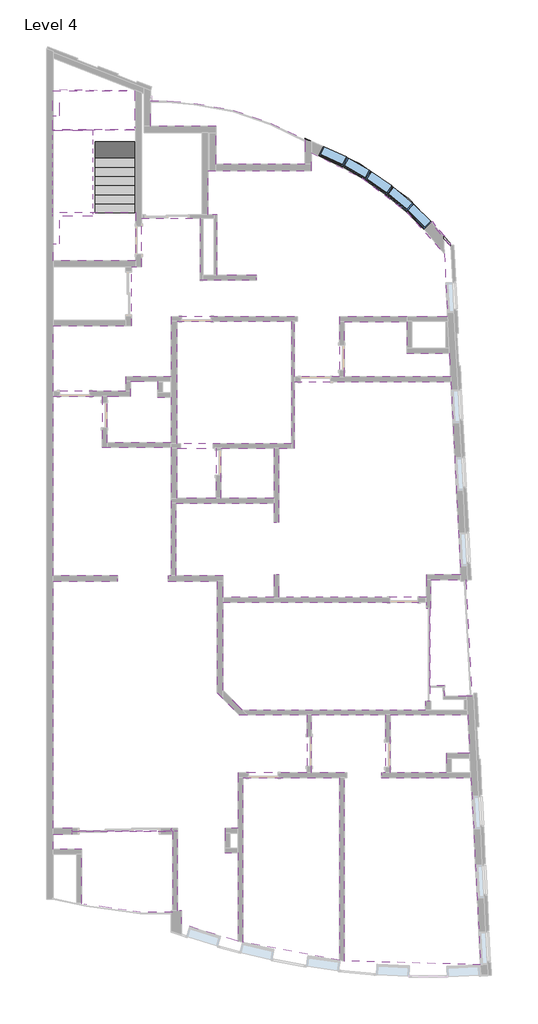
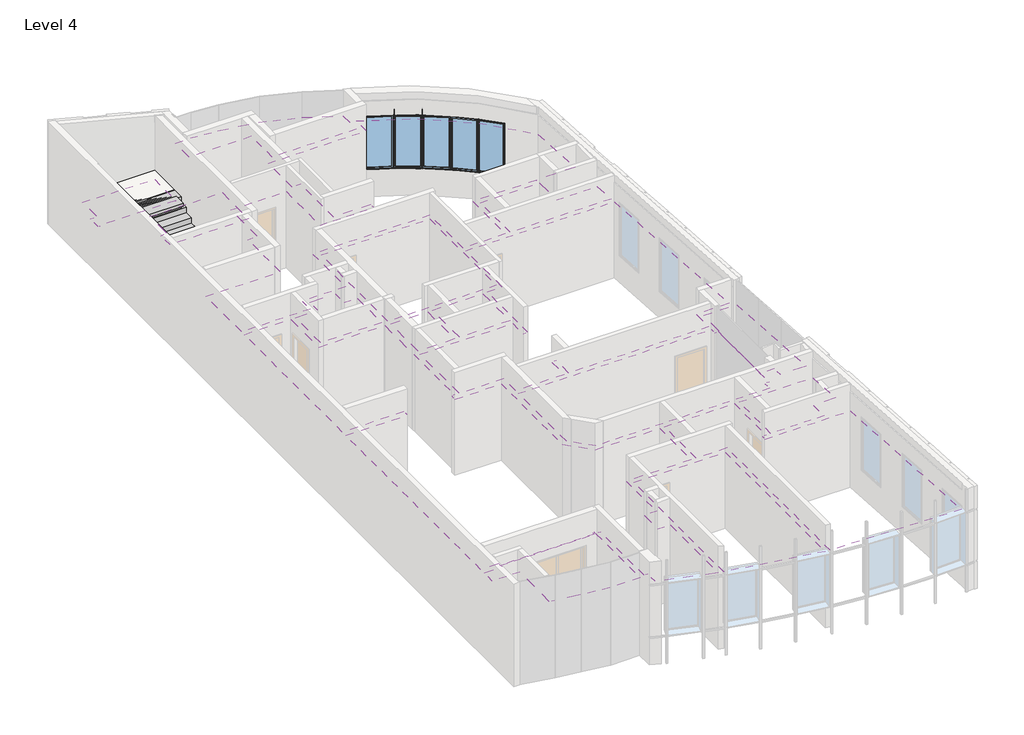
# One storey, part 5 of 5: 19 coverings, 5 windows, 2 proxies, 2 stair flights, 1 slab.
"""IFC4 building model written with IfcOpenShell, lengths in millimetres."""

import ifcopenshell
import ifcopenshell.guid

model = None  # the IFC model being written
_history = None  # IfcOwnerHistory: only IFC2X3 demands one
_inside = {}  # id of a spatial element -> (the spatial element, [elements in it])
_under = {}  # id of a project, library or spatial element -> (it, [spatial elements below it])
_declared = {}  # id of a project -> (the project, [libraries it declares])
_typed = {}  # id of a type object -> (the type object, [elements of that type])
_made_of = {}  # id of a material, layer set ... -> (it, [elements and type objects made of it])


def new_model(schema):
    """Start an empty IFC model of exactly this schema.

    Asked for "IFC4X3", IfcOpenShell would pick the latest addendum, in which some entities
    have other attributes; the version numbers below select the first issue.
    IFC2X3 requires an IfcOwnerHistory on every rooted entity: one is made here for all.
    """
    global model, _history
    if schema == "IFC4X3":
        model = ifcopenshell.file(schema_version=(4, 3, 0, 0))
    else:
        model = ifcopenshell.file(schema=schema)
    _inside.clear()
    _under.clear()
    _declared.clear()
    _typed.clear()
    _made_of.clear()
    _history = None
    if model.schema == "IFC2X3":
        org = make("IfcOrganization", Name="unknown")
        user = make(
            "IfcPersonAndOrganization",
            ThePerson=make("IfcPerson", FamilyName="unknown"),
            TheOrganization=org,
        )
        app = make(
            "IfcApplication",
            ApplicationDeveloper=org,
            Version="unknown",
            ApplicationFullName="unknown",
            ApplicationIdentifier="unknown",
        )
        _history = make(
            "IfcOwnerHistory",
            OwningUser=user,
            OwningApplication=app,
            ChangeAction="ADDED",
            CreationDate=0,
        )
    return model


def make(cls, **values):
    """One entity of the class cls with the attributes given. An attribute that is None is left unset."""
    return model.create_entity(
        cls, **{name: value for name, value in values.items() if value is not None}
    )


def rooted(cls, **values):
    """An entity with a GlobalId (a new one), such as an element, a storey or a relation."""
    return make(cls, GlobalId=ifcopenshell.guid.new(), OwnerHistory=_history, **values)


def si_unit(unit_type, name, prefix=None):
    """IfcSIUnit, for example si_unit("LENGTHUNIT", "METRE", prefix="MILLI")."""
    return make("IfcSIUnit", UnitType=unit_type, Prefix=prefix, Name=name)


def assignment(units):
    """IfcUnitAssignment: the units of a project."""
    return None if units is None else make("IfcUnitAssignment", Units=units)


def point(xyz):
    """IfcCartesianPoint."""
    return None if xyz is None else make("IfcCartesianPoint", Coordinates=xyz)


def direction(xyz):
    """IfcDirection."""
    return None if xyz is None else make("IfcDirection", DirectionRatios=xyz)


def frame(location, z_axis=None, x_axis=None):
    """IfcAxis2Placement3D, a coordinate frame: its origin and axes. An axis left out is left unset."""
    return make(
        "IfcAxis2Placement3D",
        Location=point(location),
        Axis=direction(z_axis),
        RefDirection=direction(x_axis),
    )


def frame_2d(location, x_axis=None):
    """IfcAxis2Placement2D, a coordinate frame in the plane: its origin and x axis."""
    return make(
        "IfcAxis2Placement2D", Location=point(location), RefDirection=direction(x_axis)
    )


def origin():
    """The frame at (0, 0, 0) with its axes left unset."""
    return frame((0.0, 0.0, 0.0))


def place(relative_to, where):
    """IfcLocalPlacement: puts the frame where relative to a parent placement (None: the world)."""
    return make(
        "IfcLocalPlacement", PlacementRelTo=relative_to, RelativePlacement=where
    )


def context(
    kind, dimensions, precision=None, world=None, true_north=None, identifier=None
):
    """IfcGeometricRepresentationContext, for example the 3D "Model" context."""
    return make(
        "IfcGeometricRepresentationContext",
        ContextIdentifier=identifier,
        ContextType=kind,
        CoordinateSpaceDimension=dimensions,
        Precision=precision,
        WorldCoordinateSystem=world,
        TrueNorth=true_north,
    )


def project(units=None, contexts=None):
    """IfcProject with its units and contexts."""
    return rooted(
        "IfcProject",
        Name="project",
        RepresentationContexts=contexts,
        UnitsInContext=assignment(units),
    )


def spatial(cls, under=None, at=None, **own):
    """A site, building, storey or space (cls), placed at a placement, below another one or the project."""
    s = rooted(cls, ObjectPlacement=at, **own)
    if under is not None:
        _under.setdefault(under.id(), (under, []))[1].append(s)
    return s


def polyline(points):
    """IfcPolyline through the points."""
    return make("IfcPolyline", Points=[point(p) for p in points])


def circle_curve(where, radius):
    """IfcCircle in the frame where."""
    return make("IfcCircle", Position=where, Radius=radius)


def trimmed(basis, trim1, trim2, sense, master):
    """IfcTrimmedCurve: the piece of a basis curve between two trims."""
    return make(
        "IfcTrimmedCurve",
        BasisCurve=basis,
        Trim1=trim1,
        Trim2=trim2,
        SenseAgreement=sense,
        MasterRepresentation=master,
    )


def segment(curve, same_sense, transition):
    """IfcCompositeCurveSegment."""
    return make(
        "IfcCompositeCurveSegment",
        Transition=transition,
        SameSense=same_sense,
        ParentCurve=curve,
    )


def composite_curve(segments, self_intersect=None):
    """IfcCompositeCurve: segments joined end to end."""
    return make("IfcCompositeCurve", Segments=segments, SelfIntersect=self_intersect)


def outline(outer, holes=None, kind="AREA"):
    """IfcArbitraryClosedProfileDef: a profile drawn as a closed curve; with holes, ...WithVoids."""
    if holes is None:
        return make("IfcArbitraryClosedProfileDef", ProfileType=kind, OuterCurve=outer)
    return make(
        "IfcArbitraryProfileDefWithVoids",
        ProfileType=kind,
        OuterCurve=outer,
        InnerCurves=holes,
    )


def extrude(swept, where, along, depth):
    """IfcExtrudedAreaSolid: the profile swept, set in the frame where, extruded along a direction by depth."""
    return make(
        "IfcExtrudedAreaSolid",
        SweptArea=swept,
        Position=where,
        ExtrudedDirection=direction(along),
        Depth=depth,
    )


def faces_of(points, faces, orient=None, outer=None):
    """IfcFace entities. A face is a list of loops; a loop is a list of indices into points, from 0.

    orient and outer hold one flag for each loop. By default every Orientation is true, the
    first loop of a face is its IfcFaceOuterBound and the others are IfcFaceBound.
    """
    made = []
    for i, loops in enumerate(faces):
        bounds = []
        for j, loop in enumerate(loops):
            is_outer = j == 0 if outer is None else outer[i][j]
            bounds.append(
                make(
                    "IfcFaceOuterBound" if is_outer else "IfcFaceBound",
                    Bound=make("IfcPolyLoop", Polygon=[points[k] for k in loop]),
                    Orientation=True if orient is None else orient[i][j],
                )
            )
        made.append(make("IfcFace", Bounds=bounds))
    return made


def faceted_brep(points, faces, orient=None, outer=None, voids=None):
    """IfcFacetedBrep: a solid bounded by flat faces; with voids (closed shells), ...WithVoids."""
    shared = [point(p) for p in points]
    hull = make("IfcClosedShell", CfsFaces=faces_of(shared, faces, orient, outer))
    if voids is None:
        return make("IfcFacetedBrep", Outer=hull)
    return make(
        "IfcFacetedBrepWithVoids",
        Outer=hull,
        Voids=[
            make(cls, CfsFaces=faces_of(shared, fs, o, b)) for cls, fs, o, b in voids
        ],
    )


def shape(context_of_items, identifier, shape_type, items):
    """IfcShapeRepresentation: the items that make up one representation, for example the "Body"."""
    return make(
        "IfcShapeRepresentation",
        ContextOfItems=context_of_items,
        RepresentationIdentifier=identifier,
        RepresentationType=shape_type,
        Items=items,
    )


def source(mapping_origin, context_of_items, identifier, shape_type, items):
    """IfcRepresentationMap: a shape defined once, which mapped items show again and again."""
    return make(
        "IfcRepresentationMap",
        MappingOrigin=mapping_origin,
        MappedRepresentation=shape(context_of_items, identifier, shape_type, items),
    )


def transform(
    local_origin,
    x_axis=None,
    y_axis=None,
    z_axis=None,
    scale=None,
    scale2=None,
    scale3=None,
    uniform=True,
):
    """IfcCartesianTransformationOperator3D, or its non-uniform kind. x_axis, y_axis, z_axis: its Axis1, 2, 3."""
    if uniform:
        return make(
            "IfcCartesianTransformationOperator3D",
            Axis1=direction(x_axis),
            Axis2=direction(y_axis),
            LocalOrigin=point(local_origin),
            Scale=scale,
            Axis3=direction(z_axis),
        )
    return make(
        "IfcCartesianTransformationOperator3DnonUniform",
        Axis1=direction(x_axis),
        Axis2=direction(y_axis),
        LocalOrigin=point(local_origin),
        Scale=scale,
        Axis3=direction(z_axis),
        Scale2=scale2,
        Scale3=scale3,
    )


def mapped(mapping_source, mapping_target):
    """IfcMappedItem: shows the shape of a source again, moved by a transform."""
    return make(
        "IfcMappedItem", MappingSource=mapping_source, MappingTarget=mapping_target
    )


def made_of(thing, what):
    """Note that an element or type object is made of a material, layer set ...; save() writes the relation."""
    if what is not None:
        _made_of.setdefault(what.id(), (what, []))[1].append(thing)
    return thing


def element(
    cls,
    number,
    at=None,
    inside=None,
    cuts=None,
    type_object=None,
    material=None,
    context=None,
    identifier="Body",
    shape_type=None,
    held_by="IfcProductDefinitionShape",
    body=None,
    shapes=None,
    **own,
):
    """One element of the class cls, such as IfcWall. Its Tag is "e" and its number.

    at: its placement. inside: the storey or other place that contains it. cuts: it is an
    opening in that element (IfcRelVoidsElement). A single representation is given by context,
    identifier, shape_type and body (its items); several are given by shapes. held_by: the class
    of the entity that holds the representations. save() writes the other relations.
    """
    e = rooted(cls, Tag="e%d" % number, ObjectPlacement=at, **own)
    if body is not None:
        shapes = [shape(context, identifier, shape_type, body)]
    if shapes is not None:
        e.Representation = make(held_by, Representations=shapes)
    if inside is not None:
        _inside.setdefault(inside.id(), (inside, []))[1].append(e)
    if cuts is not None:
        rooted(
            "IfcRelVoidsElement", RelatingBuildingElement=cuts, RelatedOpeningElement=e
        )
    if type_object is not None:
        _typed.setdefault(type_object.id(), (type_object, []))[1].append(e)
    return made_of(e, material)


def aggregate(whole, parts):
    """IfcRelAggregates: a whole, such as a stair, and the parts it consists of."""
    return rooted("IfcRelAggregates", RelatingObject=whole, RelatedObjects=parts)


def save(model, path):
    """Write the relations noted so far, then the file.

    IfcRelAggregates (storeys below a building ...), IfcRelContainedInSpatialStructure (elements
    in a storey), IfcRelDefinesByType, IfcRelAssociatesMaterial and IfcRelDeclares: one each for
    every whole, place, type object, material and project.
    """
    for whole, parts in _under.values():
        aggregate(whole, parts)
    for where, things in _inside.values():
        rooted(
            "IfcRelContainedInSpatialStructure",
            RelatedElements=things,
            RelatingStructure=where,
        )
    for kind, things in _typed.values():
        rooted("IfcRelDefinesByType", RelatedObjects=things, RelatingType=kind)
    for what, things in _made_of.values():
        rooted("IfcRelAssociatesMaterial", RelatedObjects=things, RelatingMaterial=what)
    for by, libraries in _declared.values():
        rooted("IfcRelDeclares", RelatingContext=by, RelatedDefinitions=libraries)
    model.write(path)


def m_fixed_0815_x_1830mm_2_6a11e188(model_context):
    return source(origin(), model_context, "Body", "SweptSolid", [
        extrude(outline(polyline([(-344.5, 138.0), (344.5, 138.0), (344.5, 126.0), (-344.5, 126.0), (-344.5, 138.0)])), frame((0.0, 0.0, 368.0), z_axis=(0.0, 0.0, 1.0), x_axis=(1.0, 0.0, 0.0)), (0.0, 0.0, 1.0), 1704.0),
        extrude(outline(polyline([(2116.0, -388.5), (324.0, -388.5), (324.0, 388.5), (2116.0, 388.5), (2116.0, -388.5)]), holes=[polyline([(2072.0, -344.5), (2072.0, 344.5), (368.0, 344.5), (368.0, -344.5), (2072.0, -344.5)])]), frame((0.0, 110.0, 0.0), z_axis=(0.0, 1.0, 0.0), x_axis=(0.0, 0.0, 1.0)), (0.0, 0.0, 1.0), 44.0),
        extrude(outline(polyline([(2135.0, -407.5), (305.0, -407.5), (305.0, 407.5), (2135.0, 407.5), (2135.0, -407.5)]), holes=[polyline([(2116.0, -388.5), (2116.0, 388.5), (324.0, 388.5), (324.0, -388.5), (2116.0, -388.5)])]), frame((0.0, 110.0, 0.0), z_axis=(0.0, 1.0, 0.0), x_axis=(0.0, 0.0, 1.0)), (0.0, 0.0, 1.0), 63.0),
        extrude(outline(polyline([(2135.0, -407.5), (305.0, -407.5), (305.0, 407.5), (2135.0, 407.5), (2135.0, -407.5)]), holes=[polyline([(2103.0, -375.5), (2103.0, 375.5), (337.0, 375.5), (337.0, -375.5), (2103.0, -375.5)])]), frame((0.0, -147.0, 0.0), z_axis=(0.0, 1.0, 0.0), x_axis=(0.0, 0.0, 1.0)), (0.0, 0.0, 1.0), 257.0),
    ])


model = new_model("IFC4")

# Units and contexts
model_context = context("Model", 3, world=origin())
ifc_project = project(units=[si_unit("LENGTHUNIT", "METRE", prefix="MILLI")], contexts=[model_context])

# Site, building, storey
site = spatial("IfcSite", under=ifc_project)
building = spatial("IfcBuilding", under=site)
storey = spatial("IfcBuildingStorey", under=building, Name="Level 4", Elevation=15000.0)

# Proxies
placement = place(None, origin())
element("IfcBuildingElementProxy", 1, Name="Reveal", ObjectType="Reveal", at=placement, inside=storey, context=model_context, shape_type="SweptSolid", body=[
    extrude(outline(composite_curve([segment(trimmed(circle_curve(frame_2d((4535.6080259, 3399.2748166)), 9525.0), [point((12124.5482533, 9155.45508))], [point((7662.3072504, 12396.4619859))], True, "CARTESIAN"), True, "CONTINUOUS"), segment(polyline([(7662.3072504, 12396.4619859), (7662.3072504, 12449.3785154)]), True, "CONTINUOUS"), segment(trimmed(circle_curve(frame_2d((4535.6080259, 3399.2748166)), 9575.0), [point((7662.3072504, 12449.3785154))], [point((12120.0590293, 9243.6505726))], False, "CARTESIAN"), True, "CONTINUOUS"), segment(polyline([(12120.0590293, 9243.6505726), (12124.5482533, 9155.45508)]), True, "CONTINUOUS")], self_intersect=False)), frame((0.0, 0.0, 15875.0), z_axis=(0.0, 0.0, 1.0), x_axis=(1.0, 0.0, 0.0)), (0.0, 0.0, 1.0), 50.0),
])
element("IfcBuildingElementProxy", 2, Name="Reveal", ObjectType="Reveal", at=placement, inside=storey, context=model_context, shape_type="SweptSolid", body=[
    extrude(outline(composite_curve([segment(trimmed(circle_curve(frame_2d((4535.6080259, 3399.2748166)), 9525.0), [point((12124.5482533, 9155.45508))], [point((11527.266896, 9867.8396686))], True, "CARTESIAN"), True, "CONTINUOUS"), segment(polyline([(11527.266896, 9867.8396686), (11562.5143185, 9903.3668328)]), True, "CONTINUOUS"), segment(trimmed(circle_curve(frame_2d((4535.6080259, 3399.2748166)), 9575.0), [point((11562.5143185, 9903.3668328))], [point((12120.0590293, 9243.6505726))], False, "CARTESIAN"), True, "CONTINUOUS"), segment(polyline([(12120.0590293, 9243.6505726), (12124.5482533, 9155.45508)]), True, "CONTINUOUS")], self_intersect=False)), frame((0.0, 0.0, 17695.0), z_axis=(0.0, 0.0, 1.0), x_axis=(1.0, 0.0, 0.0)), (0.0, 0.0, 1.0), 50.0),
    extrude(outline(composite_curve([segment(trimmed(circle_curve(frame_2d((4535.6080259, 3399.2748166)), 9525.0), [point((8210.516289, 12186.8042907))], [point((7662.3072504, 12396.4619859))], True, "CARTESIAN"), True, "CONTINUOUS"), segment(polyline([(7662.3072504, 12396.4619859), (7662.3072504, 12449.3785154)]), True, "CONTINUOUS"), segment(trimmed(circle_curve(frame_2d((4535.6080259, 3399.2748166)), 9575.0), [point((7662.3072504, 12449.3785154))], [point((8231.7823405, 12232.1067767))], False, "CARTESIAN"), True, "CONTINUOUS"), segment(polyline([(8231.7823405, 12232.1067767), (8210.516289, 12186.8042907)]), True, "CONTINUOUS")], self_intersect=False)), frame((0.0, 0.0, 17695.0), z_axis=(0.0, 0.0, 1.0), x_axis=(1.0, 0.0, 0.0)), (0.0, 0.0, 1.0), 50.0),
    extrude(outline(composite_curve([segment(trimmed(circle_curve(frame_2d((4535.6080259, 3399.2748166)), 9525.0), [point((8957.9716481, 11835.4069275))], [point((8948.2742549, 11840.4833647))], True, "CARTESIAN"), True, "CONTINUOUS"), segment(polyline([(8948.2742549, 11840.4833647), (8969.5403064, 11885.7858507)]), True, "CONTINUOUS"), segment(trimmed(circle_curve(frame_2d((4535.6080259, 3399.2748166)), 9575.0), [point((8969.5403064, 11885.7858507))], [point((8983.0823429, 11878.6968016))], False, "CARTESIAN"), True, "CONTINUOUS"), segment(polyline([(8983.0823429, 11878.6968016), (8957.9716481, 11835.4069275)]), True, "CONTINUOUS")], self_intersect=False)), frame((0.0, 0.0, 17695.0), z_axis=(0.0, 0.0, 1.0), x_axis=(1.0, 0.0, 0.0)), (0.0, 0.0, 1.0), 50.0),
    extrude(outline(composite_curve([segment(trimmed(circle_curve(frame_2d((4535.6080259, 3399.2748166)), 9525.0), [point((9668.2107942, 11423.1151579))], [point((9662.9539178, 11426.4753937))], True, "CARTESIAN"), True, "CONTINUOUS"), segment(polyline([(9662.9539178, 11426.4753937), (9688.0646126, 11469.7652678)]), True, "CONTINUOUS"), segment(trimmed(circle_curve(frame_2d((4535.6080259, 3399.2748166)), 9575.0), [point((9688.0646126, 11469.7652678))], [point((9696.9570845, 11464.0811314))], False, "CARTESIAN"), True, "CONTINUOUS"), segment(polyline([(9696.9570845, 11464.0811314), (9668.2107942, 11423.1151579)]), True, "CONTINUOUS")], self_intersect=False)), frame((0.0, 0.0, 17695.0), z_axis=(0.0, 0.0, 1.0), x_axis=(1.0, 0.0, 0.0)), (0.0, 0.0, 1.0), 50.0),
    extrude(outline(composite_curve([segment(trimmed(circle_curve(frame_2d((4535.6080259, 3399.2748166)), 9525.0), [point((10340.2860207, 10951.1844014))], [point((10335.3479854, 10954.9773917))], True, "CARTESIAN"), True, "CONTINUOUS"), segment(polyline([(10335.3479854, 10954.9773917), (10364.0942756, 10995.9433652)]), True, "CONTINUOUS"), segment(trimmed(circle_curve(frame_2d((4535.6080259, 3399.2748166)), 9575.0), [point((10364.0942756, 10995.9433652))], [point((10372.454166, 10989.521989))], False, "CARTESIAN"), True, "CONTINUOUS"), segment(polyline([(10372.454166, 10989.521989), (10340.2860207, 10951.1844014)]), True, "CONTINUOUS")], self_intersect=False)), frame((0.0, 0.0, 17695.0), z_axis=(0.0, 0.0, 1.0), x_axis=(1.0, 0.0, 0.0)), (0.0, 0.0, 1.0), 50.0),
])

# Coverings
element("IfcCovering", 3, ObjectType="600 x 600mm Grid", at=placement, inside=storey, context=model_context, shape_type="SweptSolid", body=[
    extrude(outline(polyline([(3749.9578779, 6844.2927825), (7249.9578779, 6844.2927825), (7249.9578779, 3106.8778064), (3749.9578779, 3106.8778064), (3749.9578779, 6844.2927825)])), frame((0.0, 0.0, 17600.0), z_axis=(0.0, 0.0, 1.0), x_axis=(1.0, 0.0, 0.0)), (0.0, 0.0, 1.0), 52.0),
])
element("IfcCovering", 4, ObjectType="600 x 600mm Grid", at=placement, inside=storey, context=model_context, shape_type="SweptSolid", body=[
    extrude(outline(polyline([(10788.049349, 5875.0705769), (12091.2636332, 5875.0705769), (12128.2063311, 5149.2927029), (8869.9578779, 5149.2927029), (8869.9578779, 6830.3684627), (10788.049349, 6830.3684627), (10788.049349, 5875.0705769)])), frame((0.0, 0.0, 17600.0), z_axis=(0.0, 0.0, 1.0), x_axis=(1.0, 0.0, 0.0)), (0.0, 0.0, 1.0), 52.0),
])
element("IfcCovering", 5, ObjectType="600 x 600mm Grid", at=placement, inside=storey, context=model_context, shape_type="SweptSolid", body=[
    extrude(outline(composite_curve([segment(polyline([(10005.6168737, -7123.7981953), (12752.9168737, -7123.7981953), (13044.0399551, -12843.2151043)]), True, "CONTINUOUS"), segment(trimmed(circle_curve(frame_2d((11609.3245394, 10843.3737526)), 23730.0), [point((13044.0399551, -12843.2151043))], [point((8870.2907737, -12728.0198004))], False, "CARTESIAN"), True, "CONTINUOUS"), segment(polyline([(8870.2907737, -12728.0198004), (8870.2907737, -6973.7981953), (7870.2909314, -6973.7981953), (7870.2909314, -5198.7981953), (10130.2907737, -5198.7981953), (10130.2907737, -6973.7981953), (10005.6168737, -6973.7981953), (10005.6168737, -7123.7981953)]), True, "CONTINUOUS")], self_intersect=False)), frame((0.0, 0.0, 17600.0), z_axis=(0.0, 0.0, 1.0), x_axis=(1.0, 0.0, 0.0)), (0.0, 0.0, 1.0), 52.0),
])
element("IfcCovering", 6, ObjectType="600 x 600mm Grid", at=placement, inside=storey, context=model_context, shape_type="SweptSolid", body=[
    extrude(outline(polyline([(10280.2907737, -5198.7981953), (12654.9327714, -5198.7981953), (12714.7412494, -6373.7981953), (11997.4732011, -6373.7981953), (11997.4732011, -6973.7981953), (10280.2907737, -6973.7981953), (10280.2907737, -5198.7981953)])), frame((0.0, 0.0, 17600.0), z_axis=(0.0, 0.0, 1.0), x_axis=(1.0, 0.0, 0.0)), (0.0, 0.0, 1.0), 52.0),
])
element("IfcCovering", 7, ObjectType="600 x 600mm Grid", at=placement, inside=storey, context=model_context, shape_type="SweptSolid", body=[
    extrude(outline(polyline([(5089.9578779, 1426.8778064), (5089.9578779, 2956.8778064), (6719.9578779, 2956.8778064), (6719.9578779, 1426.8778064), (5089.9578779, 1426.8778064)])), frame((0.0, 0.0, 17600.0), z_axis=(0.0, 0.0, 1.0), x_axis=(1.0, 0.0, 0.0)), (0.0, 0.0, 1.0), 52.0),
])
element("IfcCovering", 8, ObjectType="600 x 600mm Grid", at=placement, inside=storey, context=model_context, shape_type="SweptSolid", body=[
    extrude(outline(polyline([(3569.9578779, 4516.8864855), (3569.9578779, 3136.8778064), (1599.9578776, 3136.8778064), (1599.9578776, 4556.8830582), (2319.9578779, 4556.8830582), (2319.9578779, 5006.8860701), (3149.9574416, 5006.8860701), (3149.9574416, 4516.8864855), (3569.9578779, 4516.8864855)])), frame((0.0, 0.0, 17600.0), z_axis=(0.0, 0.0, 1.0), x_axis=(1.0, 0.0, 0.0)), (0.0, 0.0, 1.0), 52.0),
])
element("IfcCovering", 9, ObjectType="600 x 600mm Grid", at=placement, inside=storey, context=model_context, shape_type="SweptSolid", body=[
    extrude(outline(composite_curve([segment(polyline([(11936.5482631, 8914.6155682), (12034.2942913, 6994.2927825), (10782.6929286, 6994.2927825), (10782.6929286, 6980.3684627), (8719.9578779, 6980.3684627), (8719.9578779, 5149.2927029), (7349.9578779, 5149.2927029), (7349.9578779, 6994.2927825), (3569.9578779, 6994.2927825), (3569.9578779, 5156.8860701), (2169.9578779, 5156.8860701), (2169.9578779, 4706.8830582), (-50.0421304, 4706.8830582), (-50.0421304, 6706.8748838), (2350.0654712, 6706.8748838), (2350.0654712, 8516.8748746), (2661.8607589, 8516.8748746), (2661.8607589, 10006.8748959), (4449.2779066, 10006.8748959), (4449.2779066, 8112.262158), (6174.9402277, 8112.262158), (6174.9402277, 8262.262158), (4979.9402277, 8262.262158), (4979.9402277, 10106.8748959), (4699.9587688, 10106.8748959), (4699.9587688, 11454.5991251), (7862.3072504, 11454.5991251), (7862.3072504, 12008.9189597)]), True, "CONTINUOUS"), segment(trimmed(circle_curve(frame_2d((4535.6080259, 3399.2748166)), 9230.0), [point((7862.3072504, 12008.9189597))], [point((11936.5482631, 8914.6155682))], False, "CARTESIAN"), True, "CONTINUOUS")], self_intersect=False)), frame((0.0, 0.0, 17600.0), z_axis=(0.0, 0.0, 1.0), x_axis=(1.0, 0.0, 0.0)), (0.0, 0.0, 1.0), 52.0),
])
element("IfcCovering", 10, ObjectType="600 x 600mm Grid", at=placement, inside=storey, context=model_context, shape_type="SweptSolid", body=[
    extrude(outline(composite_curve([segment(trimmed(circle_curve(frame_2d((11609.3245394, 10843.3737526)), 23730.0), [point((8720.2907737, -12710.1054788))], [point((5770.2907737, -12157.0302587))], False, "CARTESIAN"), True, "CONTINUOUS"), segment(polyline([(5770.2907737, -12157.0302587), (5770.2907737, -7123.7981953), (8720.2907737, -7123.7981953), (8720.2907737, -12710.1054788)]), True, "CONTINUOUS")], self_intersect=False)), frame((0.0, 0.0, 17600.0), z_axis=(0.0, 0.0, 1.0), x_axis=(1.0, 0.0, 0.0)), (0.0, 0.0, 1.0), 52.0),
])
element("IfcCovering", 11, ObjectType="600 x 600mm Grid", at=placement, inside=storey, context=model_context, shape_type="SweptSolid", body=[
    extrude(outline(composite_curve([segment(polyline([(-50.0421304, -8662.2362629), (-50.0421304, -1113.1221936), (1933.9578781, -1113.1221936), (1933.9578781, -933.1221936), (-50.0421304, -933.1221936), (-50.0421304, 4556.8830582), (1449.9578776, 4556.8830582), (1449.9578776, 2986.8778064), (3569.9578779, 2986.8778064), (3569.9578779, 1351.8778064), (3569.9578779, -933.1221936), (3473.9578779, -933.1221936), (3473.9578779, -1113.1221936), (4969.9578778, -1113.1221936), (4969.9578778, -4517.9715169), (5643.7897147, -5198.7981953), (7720.2909314, -5198.7981953), (7720.2909314, -6973.7981953), (5620.2907737, -6973.7981953), (5620.2907737, -8662.29082), (5223.5699518, -8662.29082), (5223.5699518, -9422.4272222), (5620.2907737, -9422.4272222), (5620.2907737, -12118.4287584)]), True, "CONTINUOUS"), segment(trimmed(circle_curve(frame_2d((11609.3245394, 10843.3737526)), 23730.0), [point((5620.2907737, -12118.4287584))], [point((3880.252741, -11592.6318887))], False, "CARTESIAN"), True, "CONTINUOUS"), segment(polyline([(3880.252741, -11592.6318887), (3880.252741, -11189.3160932), (3760.252741, -11189.3160932), (3760.252741, -8757.0181124), (3600.5670169, -8757.0181124), (3600.5670169, -8673.6141586), (3557.6788606, -8673.6141586), (3557.6788606, -8757.0181124), (529.9578696, -8757.0181124), (529.9578696, -8662.2362629), (-50.0421304, -8662.2362629)]), True, "CONTINUOUS")], self_intersect=False)), frame((0.0, 0.0, 17600.0), z_axis=(0.0, 0.0, 1.0), x_axis=(1.0, 0.0, 0.0)), (0.0, 0.0, 1.0), 52.0),
])
element("IfcCovering", 12, ObjectType="600 x 600mm Grid", at=placement, inside=storey, context=model_context, shape_type="SweptSolid", body=[
    extrude(outline(polyline([(-50.0421304, -9312.1185157), (-50.0421304, -8842.2362629), (529.9578696, -8842.2362629), (529.9578696, -8757.0181124), (3610.252741, -8757.0181124), (3610.252741, -11236.9456492), (2620.252741, -11236.9456492), (1746.4600136, -11114.1420899), (974.05092, -11005.5870712), (829.9393362, -10974.9552084), (829.9393362, -9312.1185157), (-50.0421304, -9312.1185157)])), frame((0.0, 0.0, 17600.0), z_axis=(0.0, 0.0, 1.0), x_axis=(1.0, 0.0, 0.0)), (0.0, 0.0, 1.0), 52.0),
])
element("IfcCovering", 13, ObjectType="600 x 600mm Grid", at=placement, inside=storey, context=model_context, shape_type="SweptSolid", body=[
    extrude(outline(polyline([(11529.9578778, -1933.9547288), (11529.9578778, -1053.8603265), (12594.2109056, -1053.8603265), (12655.9511875, -2266.8126319), (12714.9198118, -3425.3128267), (12776.048406, -4626.2478876), (11949.9334783, -4624.2050678), (11933.314431, -4297.7065316), (11490.9685725, -4320.222304), (11490.9685725, -1933.9547288), (11529.9578778, -1933.9547288)])), frame((0.0, 0.0, 17600.0), z_axis=(0.0, 0.0, 1.0), x_axis=(1.0, 0.0, 0.0)), (0.0, 0.0, 1.0), 52.0),
])
element("IfcCovering", 14, ObjectType="600 x 600mm Grid", at=placement, inside=storey, context=model_context, shape_type="SweptSolid", body=[
    extrude(outline(polyline([(5149.9578778, -4443.9569428), (5149.9578778, -1753.9547298), (11379.9578778, -1753.9547298), (11379.9578778, -1933.9547288), (11490.9685725, -1933.9547288), (11490.9685725, -4783.8440392), (11349.9578778, -4783.8440392), (11349.9578778, -5048.7981953), (5748.5849662, -5048.7981953), (5149.9578778, -4443.9569428)])), frame((0.0, 0.0, 17600.0), z_axis=(0.0, 0.0, 1.0), x_axis=(1.0, 0.0, 0.0)), (0.0, 0.0, 1.0), 52.0),
])
element("IfcCovering", 15, ObjectType="600 x 600mm Grid", at=placement, inside=storey, context=model_context, shape_type="SweptSolid", body=[
    extrude(outline(polyline([(7349.9578779, 2956.8778064), (7349.9578779, 4999.2927029), (12135.8414559, 4999.2927029), (12436.3168588, -903.8603265), (11379.9578778, -903.8603265), (11379.9578778, -1603.9547298), (6869.9578779, -1603.9547298), (6869.9578779, -903.9547298), (6719.9578779, -903.9547298), (6719.9578779, -1603.9547298), (5149.9578778, -1603.9547298), (5149.9578778, -933.1221936), (3719.9578779, -933.1221936), (3719.9578779, 1276.8778064), (6719.9578779, 1276.8778064), (6719.9578779, 696.0452702), (6869.9578779, 696.0452702), (6869.9578779, 2956.8778064), (7349.9578779, 2956.8778064)])), frame((0.0, 0.0, 17600.0), z_axis=(0.0, 0.0, 1.0), x_axis=(1.0, 0.0, 0.0)), (0.0, 0.0, 1.0), 52.0),
])
element("IfcCovering", 16, ObjectType="600 x 600mm Grid", at=placement, inside=storey, context=model_context, shape_type="SweptSolid", body=[
    extrude(outline(polyline([(3749.9578779, 1426.8778064), (3749.9578779, 2956.8778064), (4939.9578779, 2956.8778064), (4939.9578779, 1426.8778064), (3749.9578779, 1426.8778064)])), frame((0.0, 0.0, 17600.0), z_axis=(0.0, 0.0, 1.0), x_axis=(1.0, 0.0, 0.0)), (0.0, 0.0, 1.0), 52.0),
])
element("IfcCovering", 17, ObjectType="600 x 600mm Grid", at=placement, inside=storey, context=model_context, shape_type="SweptSolid", body=[
    extrude(outline(polyline([(7662.3072504, 12409.1006238), (7662.3072504, 11654.5991251), (4949.6116933, 11654.5991251), (4949.6116933, 12811.9409286), (2939.9587442, 12811.9409286), (2939.9587442, 13599.3570533), (3438.1784244, 13599.3570533), (4275.7806873, 13521.2545862), (5477.246146, 13309.4038095), (6630.7788082, 12912.210661), (7662.3072504, 12409.1006238)])), frame((0.0, 0.0, 17600.0), z_axis=(0.0, 0.0, 1.0), x_axis=(1.0, 0.0, 0.0)), (0.0, 0.0, 1.0), 52.0),
])
element("IfcCovering", 18, ObjectType="600 x 600mm Grid", at=placement, inside=storey, context=model_context, shape_type="SweptSolid", body=[
    extrude(outline(composite_curve([segment(polyline([(11936.5482631, 8914.6155682), (12034.2942913, 6994.2927825), (10782.6929286, 6994.2927825), (10782.6929286, 6980.3684627), (8719.9578779, 6980.3684627), (8719.9578779, 5149.2927029), (7349.9578779, 5149.2927029), (7349.9578779, 6994.2927825), (3569.9578779, 6994.2927825), (3569.9578779, 5156.8860701), (2169.9578779, 5156.8860701), (2169.9578779, 4706.8830582), (-50.0421304, 4706.8830582), (-50.0421304, 6706.8748838), (2350.0654712, 6706.8748838), (2350.0654712, 8516.8748746), (2661.8607589, 8516.8748746), (2661.8607589, 10006.8748959), (4449.2779066, 10006.8748959), (4449.2779066, 8112.262158), (6174.9402277, 8112.262158), (6174.9402277, 8262.262158), (4979.9402277, 8262.262158), (4979.9402277, 10106.8748959), (4699.9587688, 10106.8748959), (4699.9587688, 11454.5991251), (7862.3072504, 11454.5991251), (7862.3072504, 12008.9189597)]), True, "CONTINUOUS"), segment(trimmed(circle_curve(frame_2d((4535.6080259, 3399.2748166)), 9230.0), [point((7862.3072504, 12008.9189597))], [point((11936.5482631, 8914.6155682))], False, "CARTESIAN"), True, "CONTINUOUS")], self_intersect=False)), frame((0.0, 0.0, 17600.0), z_axis=(0.0, 0.0, 1.0), x_axis=(1.0, 0.0, 0.0)), (0.0, 0.0, 1.0), 52.0),
])
element("IfcCovering", 19, ObjectType="600 x 600mm Grid", at=placement, inside=storey, context=model_context, shape_type="SweptSolid", body=[
    extrude(outline(composite_curve([segment(polyline([(11936.5482631, 8914.6155682), (12034.2942913, 6994.2927825), (10782.6929286, 6994.2927825), (10782.6929286, 6980.3684627), (8719.9578779, 6980.3684627), (8719.9578779, 5149.2927029), (7349.9578779, 5149.2927029), (7349.9578779, 6994.2927825), (3569.9578779, 6994.2927825), (3569.9578779, 5156.8860701), (2169.9578779, 5156.8860701), (2169.9578779, 4706.8830582), (-50.0421304, 4706.8830582), (-50.0421304, 6706.8748838), (2350.0654712, 6706.8748838), (2350.0654712, 8516.8748746), (2661.8607589, 8516.8748746), (2661.8607589, 10006.8748959), (4449.2779066, 10006.8748959), (4449.2779066, 8112.262158), (6174.9402277, 8112.262158), (6174.9402277, 8262.262158), (4979.9402277, 8262.262158), (4979.9402277, 10106.8748959), (4699.9587688, 10106.8748959), (4699.9587688, 11454.5991251), (7862.3072504, 11454.5991251), (7862.3072504, 12008.9189597)]), True, "CONTINUOUS"), segment(trimmed(circle_curve(frame_2d((4535.6080259, 3399.2748166)), 9230.0), [point((7862.3072504, 12008.9189597))], [point((11936.5482631, 8914.6155682))], False, "CARTESIAN"), True, "CONTINUOUS")], self_intersect=False)), frame((0.0, 0.0, 17600.0), z_axis=(0.0, 0.0, 1.0), x_axis=(1.0, 0.0, 0.0)), (0.0, 0.0, 1.0), 52.0),
])
element("IfcCovering", 20, ObjectType="600 x 600mm Grid", at=placement, inside=storey, context=model_context, shape_type="SweptSolid", body=[
    extrude(outline(polyline([(2481.8607589, 10179.4957281), (2481.8607589, 8696.8748746), (-50.0421304, 8696.8748746), (-50.0421304, 9219.4957281), (149.9709975, 9219.4957281), (149.9709975, 10179.4957281), (2481.8607589, 10179.4957281)])), frame((0.0, 0.0, 18150.0), z_axis=(0.0, 0.0, 1.0), x_axis=(1.0, 0.0, 0.0)), (0.0, 0.0, 1.0), 52.0),
])
element("IfcCovering", 21, ObjectType="600 x 600mm Grid", at=placement, inside=storey, context=model_context, shape_type="SweptSolid", body=[
    extrude(outline(polyline([(2454.9743495, 13908.8107611), (2454.9743495, 12688.8107611), (2439.3607589, 12688.8107611), (2439.3607589, 12708.2107611), (-17.3392411, 12708.2107611), (-17.3392411, 12688.8107611), (-60.0421304, 12688.8107611), (-60.0421304, 13143.419171), (149.9709975, 13143.419171), (149.9709975, 13943.419171), (2454.9743495, 13908.8107611)])), frame((0.0, 0.0, 16350.0), z_axis=(0.0, 0.0, 1.0), x_axis=(1.0, 0.0, 0.0)), (0.0, 0.0, 1.0), 52.0),
])

# Slab
element("IfcSlab", 22, ObjectType="220mm Thickness", at=placement, inside=storey, context=model_context, shape_type="Brep", body=[
    faceted_brep([(2454.9743495, 13908.8107611, 16657.8947368), (-60.0421304, 13908.8107611, 16657.8947368), (-60.0421304, 12688.8107611, 16657.8947368), (1159.9578696, 12688.8107611, 16657.8947368), (1233.3868495, 12688.8107611, 16657.8947368), (1233.3868495, 12798.8107611, 16657.8947368), (2454.9743495, 12798.8107611, 16657.8947368), (2454.9743495, 13908.8107611, 16437.8947368), (2454.9743495, 12798.8107611, 16547.8947368), (2454.9743495, 12698.8107611, 16547.8947368), (2454.9743495, 12698.8107611, 16437.8947368), (-60.0421304, 13908.8107611, 16437.8947368), (-60.0421304, 12688.8107611, 16437.8947368), (1159.9578696, 12688.8107611, 16437.8947368), (1233.3868495, 12688.8107611, 16437.8947368), (1233.3868495, 12698.8107611, 16437.8947368), (1233.3868495, 12798.8107611, 16547.8947368), (1233.3868495, 12698.8107611, 16547.8947368)], [[[0, 1, 2, 3, 4, 5, 6]], [[7, 0, 6, 8, 9, 10]], [[1, 0, 7, 11]], [[2, 1, 11, 12]], [[3, 2, 12, 13]], [[3, 13, 14, 4]], [[11, 7, 10, 15, 14, 13, 12]], [[16, 17, 9, 8]], [[5, 16, 8, 6]], [[16, 5, 4, 14, 15, 17]], [[9, 17, 15, 10]]]),
])

# Stair flights
element("IfcStairFlight", 23, ObjectType="190mm Depth", at=placement, inside=storey, context=model_context, shape_type="Brep", body=[
    faceted_brep([(1234.9743495, 10448.8107611, 15184.2105263), (1234.9743495, 10168.8107611, 15184.2105263), (2454.9743495, 10168.8107611, 15184.2105263), (2454.9743495, 10448.8107611, 15184.2105263), (1234.9743495, 10448.8107611, 15000.0), (1234.9743495, 10168.8107611, 15000.0), (2454.9743495, 10168.8107611, 15000.0), (2454.9743495, 10448.8107611, 15000.0), (1234.9743495, 10728.8107611, 15368.4210526), (1234.9743495, 10448.8107611, 15368.4210526), (2454.9743495, 10448.8107611, 15368.4210526), (2454.9743495, 10728.8107611, 15368.4210526), (1234.9743495, 10728.8107611, 15140.9897443), (1234.9743495, 10514.5063497, 15000.0), (2454.9743495, 10514.5063497, 15000.0), (2454.9743495, 10728.8107611, 15140.9897443), (1234.9743495, 11008.8107611, 15552.6315789), (1234.9743495, 10728.8107611, 15552.6315789), (2454.9743495, 10728.8107611, 15552.6315789), (2454.9743495, 11008.8107611, 15552.6315789), (1234.9743495, 11008.8107611, 15325.2002706), (2454.9743495, 11008.8107611, 15325.2002706), (1234.9743495, 11288.8107611, 15736.8421053), (1234.9743495, 11008.8107611, 15736.8421053), (2454.9743495, 11008.8107611, 15736.8421053), (2454.9743495, 11288.8107611, 15736.8421053), (1234.9743495, 11288.8107611, 15509.410797), (2454.9743495, 11288.8107611, 15509.410797), (1234.9743495, 11568.8107611, 15921.0526316), (1234.9743495, 11288.8107611, 15921.0526316), (2454.9743495, 11288.8107611, 15921.0526316), (2454.9743495, 11568.8107611, 15921.0526316), (1234.9743495, 11568.8107611, 15693.6213233), (2454.9743495, 11568.8107611, 15693.6213233), (1234.9743495, 11848.8107611, 16105.2631579), (1234.9743495, 11568.8107611, 16105.2631579), (2454.9743495, 11568.8107611, 16105.2631579), (2454.9743495, 11848.8107611, 16105.2631579), (1234.9743495, 11848.8107611, 15877.8318496), (2454.9743495, 11848.8107611, 15877.8318496), (1234.9743495, 12128.8107611, 16289.4736842), (1234.9743495, 11848.8107611, 16289.4736842), (2454.9743495, 11848.8107611, 16289.4736842), (2454.9743495, 12128.8107611, 16289.4736842), (1234.9743495, 12128.8107611, 16062.0423759), (2454.9743495, 12128.8107611, 16062.0423759), (1234.9743495, 12408.8107611, 16473.6842105), (1234.9743495, 12128.8107611, 16473.6842105), (2454.9743495, 12128.8107611, 16473.6842105), (2454.9743495, 12408.8107611, 16473.6842105), (1234.9743495, 12408.8107611, 16246.2529022), (2454.9743495, 12408.8107611, 16246.2529022), (1234.9743495, 12408.8107611, 16657.8947368), (2454.9743495, 12408.8107611, 16657.8947368), (2454.9743495, 12788.8107611, 16657.8947368), (1234.9743495, 12788.8107611, 16657.8947368), (1234.9743495, 12788.8107611, 16557.8947368), (1234.9743495, 12688.8107611, 16557.8947368), (1234.9743495, 12688.8107611, 16430.4634285), (2454.9743495, 12688.8107611, 16430.4634285), (2454.9743495, 12688.8107611, 16557.8947368), (2454.9743495, 12788.8107611, 16557.8947368)], [[[0, 1, 2, 3]], [[1, 0, 4, 5]], [[2, 1, 5, 6]], [[3, 2, 6, 7]], [[8, 9, 10, 11]], [[4, 0, 9, 8, 12, 13]], [[0, 3, 10, 9]], [[3, 7, 14, 15, 11, 10]], [[16, 17, 18, 19]], [[17, 16, 20, 12, 8]], [[8, 11, 18, 17]], [[19, 18, 11, 15, 21]], [[22, 23, 24, 25]], [[23, 22, 26, 20, 16]], [[16, 19, 24, 23]], [[25, 24, 19, 21, 27]], [[28, 29, 30, 31]], [[29, 28, 32, 26, 22]], [[22, 25, 30, 29]], [[31, 30, 25, 27, 33]], [[34, 35, 36, 37]], [[35, 34, 38, 32, 28]], [[28, 31, 36, 35]], [[37, 36, 31, 33, 39]], [[40, 41, 42, 43]], [[41, 40, 44, 38, 34]], [[34, 37, 42, 41]], [[43, 42, 37, 39, 45]], [[46, 47, 48, 49]], [[47, 46, 50, 44, 40]], [[40, 43, 48, 47]], [[49, 48, 43, 45, 51]], [[52, 53, 54, 55]], [[52, 55, 56, 57, 58, 50, 46]], [[46, 49, 53, 52]], [[54, 53, 49, 51, 59, 60, 61]], [[58, 57, 60, 59]], [[5, 4, 13, 14, 7, 6]], [[14, 13, 12, 20, 26, 32, 38, 44, 50, 58, 59, 51, 45, 39, 33, 27, 21, 15]], [[61, 60, 57, 56]], [[61, 56, 55, 54]]]),
])
element("IfcStairFlight", 24, ObjectType="190mm Depth", at=placement, inside=storey, context=model_context, shape_type="Brep", body=[
    faceted_brep([(1159.9578696, 12688.8107611, 16842.1052632), (-60.0421304, 12688.8107611, 16842.1052632), (-60.0421304, 12677.5151724, 16842.1052632), (-60.0421304, 12408.8107611, 16842.1052632), (1159.9578696, 12408.8107611, 16842.1052632), (1159.9578696, 12677.5151724, 16842.1052632), (1159.9578696, 12408.8107611, 16614.6739548), (1159.9578696, 12677.5151724, 16437.8947368), (1159.9578696, 12688.8107611, 16437.8947368), (-60.0421304, 12688.8107611, 16437.8947368), (-60.0421304, 12677.5151724, 16437.8947368), (-60.0421304, 12408.8107611, 16614.6739548), (1159.9578696, 12128.8107611, 17026.3157895), (1159.9578696, 12408.8107611, 17026.3157895), (-60.0421304, 12408.8107611, 17026.3157895), (-60.0421304, 12128.8107611, 17026.3157895), (1159.9578696, 12128.8107611, 16798.8844812), (-60.0421304, 12128.8107611, 16798.8844812), (1159.9578696, 11848.8107611, 17210.5263158), (1159.9578696, 12128.8107611, 17210.5263158), (-60.0421304, 12128.8107611, 17210.5263158), (-60.0421304, 11848.8107611, 17210.5263158), (1159.9578696, 11848.8107611, 16983.0950075), (-60.0421304, 11848.8107611, 16983.0950075), (1159.9578696, 11568.8107611, 17394.7368421), (1159.9578696, 11848.8107611, 17394.7368421), (-60.0421304, 11848.8107611, 17394.7368421), (-60.0421304, 11568.8107611, 17394.7368421), (1159.9578696, 11568.8107611, 17167.3055338), (-60.0421304, 11568.8107611, 17167.3055338), (1159.9578696, 11288.8107611, 17578.9473684), (1159.9578696, 11568.8107611, 17578.9473684), (-60.0421304, 11568.8107611, 17578.9473684), (-60.0421304, 11288.8107611, 17578.9473684), (1159.9578696, 11288.8107611, 17351.5160601), (-60.0421304, 11288.8107611, 17351.5160601), (1159.9578696, 11008.8107611, 17763.1578947), (1159.9578696, 11288.8107611, 17763.1578947), (-60.0421304, 11288.8107611, 17763.1578947), (-60.0421304, 11008.8107611, 17763.1578947), (1159.9578696, 11008.8107611, 17535.7265864), (-60.0421304, 11008.8107611, 17535.7265864), (1159.9578696, 10728.8107611, 17947.3684211), (1159.9578696, 11008.8107611, 17947.3684211), (-60.0421304, 11008.8107611, 17947.3684211), (-60.0421304, 10728.8107611, 17947.3684211), (1159.9578696, 10728.8107611, 17719.9371127), (-60.0421304, 10728.8107611, 17719.9371127), (1159.9578696, 10448.8107611, 18131.5789474), (1159.9578696, 10728.8107611, 18131.5789474), (-60.0421304, 10728.8107611, 18131.5789474), (-60.0421304, 10448.8107611, 18131.5789474), (1159.9578696, 10448.8107611, 17904.1476391), (-60.0421304, 10448.8107611, 17904.1476391), (1159.9578696, 10448.8107611, 18315.7894737), (-60.0421304, 10448.8107611, 18315.7894737), (-60.0421304, 10068.8107611, 18315.7894737), (1159.9578696, 10068.8107611, 18315.7894737), (1159.9578696, 10068.8107611, 18215.7894737), (1159.9578696, 10168.8107611, 18215.7894737), (1159.9578696, 10168.8107611, 18088.3581654), (-60.0421304, 10168.8107611, 18088.3581654), (-60.0421304, 10168.8107611, 18215.7894737), (-60.0421304, 10068.8107611, 18215.7894737)], [[[0, 1, 2, 3, 4, 5]], [[4, 6, 7, 8, 0, 5]], [[1, 0, 8, 9]], [[1, 9, 10, 11, 3, 2]], [[12, 13, 14, 15]], [[13, 12, 16, 6, 4]], [[14, 13, 4, 3]], [[15, 14, 3, 11, 17]], [[18, 19, 20, 21]], [[19, 18, 22, 16, 12]], [[20, 19, 12, 15]], [[21, 20, 15, 17, 23]], [[24, 25, 26, 27]], [[25, 24, 28, 22, 18]], [[26, 25, 18, 21]], [[27, 26, 21, 23, 29]], [[30, 31, 32, 33]], [[31, 30, 34, 28, 24]], [[32, 31, 24, 27]], [[33, 32, 27, 29, 35]], [[36, 37, 38, 39]], [[37, 36, 40, 34, 30]], [[38, 37, 30, 33]], [[39, 38, 33, 35, 41]], [[42, 43, 44, 45]], [[43, 42, 46, 40, 36]], [[44, 43, 36, 39]], [[45, 44, 39, 41, 47]], [[48, 49, 50, 51]], [[49, 48, 52, 46, 42]], [[50, 49, 42, 45]], [[51, 50, 45, 47, 53]], [[54, 55, 56, 57]], [[54, 57, 58, 59, 60, 52, 48]], [[55, 54, 48, 51]], [[56, 55, 51, 53, 61, 62, 63]], [[61, 60, 59, 62]], [[10, 7, 6, 16, 22, 28, 34, 40, 46, 52, 60, 61, 53, 47, 41, 35, 29, 23, 17, 11]], [[7, 10, 9, 8]], [[63, 62, 59, 58]], [[63, 58, 57, 56]]]),
])

# Windows
m_fixed_0815_x_1830mm_2_shape = m_fixed_0815_x_1830mm_2_6a11e188(model_context)
element("IfcWindow", 25, ObjectType="M_Fixed : 0815 x 1830mm 2", at=placement, inside=storey, context=model_context, shape_type="MappedRepresentation", body=[
    mapped(m_fixed_0815_x_1830mm_2_shape, transform((11152.0749385, 10068.2534159, 15595.0), x_axis=(-0.7098961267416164, 0.7043063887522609, 0.0), y_axis=(-0.7043063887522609, -0.7098961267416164, 0.0), z_axis=(0.0, 0.0, 1.0))),
])
element("IfcWindow", 26, ObjectType="M_Fixed : 0815 x 1830mm 2", at=placement, inside=storey, context=model_context, shape_type="MappedRepresentation", body=[
    mapped(m_fixed_0815_x_1830mm_2_shape, transform((10574.0486821, 10595.8117897, 15595.0), x_axis=(-0.7660533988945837, 0.6427769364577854, 0.0), y_axis=(-0.6427769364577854, -0.7660533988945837, 0.0), z_axis=(0.0, 0.0, 1.0))),
])
element("IfcWindow", 27, ObjectType="M_Fixed : 0815 x 1830mm 2", at=placement, inside=storey, context=model_context, shape_type="MappedRepresentation", body=[
    mapped(m_fixed_0815_x_1830mm_2_shape, transform((9931.7154506, 11089.1990441, 15595.0), x_axis=(-0.8185732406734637, 0.5744021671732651, 0.0), y_axis=(-0.5744021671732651, -0.8185732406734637, 0.0), z_axis=(0.0, 0.0, 1.0))),
])
element("IfcWindow", 28, ObjectType="M_Fixed : 0815 x 1830mm 2", at=placement, inside=storey, context=model_context, shape_type="MappedRepresentation", body=[
    mapped(m_fixed_0815_x_1830mm_2_shape, transform((9249.2599573, 11525.4298381, 15595.0), x_axis=(-0.8650089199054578, 0.5017564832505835, 0.0), y_axis=(-0.5017564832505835, -0.8650089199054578, 0.0), z_axis=(0.0, 0.0, 1.0))),
])
element("IfcWindow", 29, ObjectType="M_Fixed : 0815 x 1830mm 2", at=placement, inside=storey, context=model_context, shape_type="MappedRepresentation", body=[
    mapped(m_fixed_0815_x_1830mm_2_shape, transform((8527.5630763, 11903.2271236, 15595.0), x_axis=(-0.9052244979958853, 0.4249336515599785, 0.0), y_axis=(-0.4249336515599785, -0.9052244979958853, 0.0), z_axis=(0.0, 0.0, 1.0))),
])

save(model, "model.ifc")
